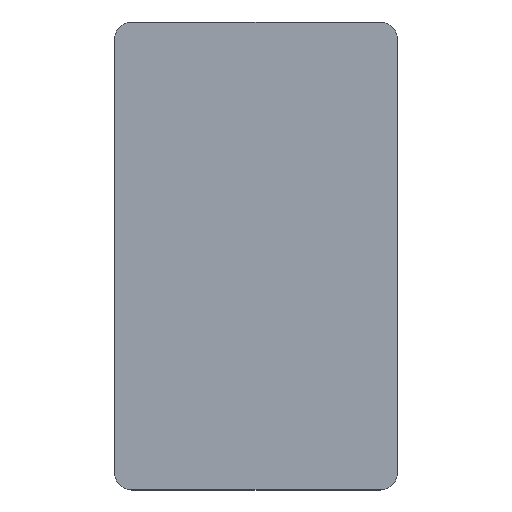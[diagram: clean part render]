
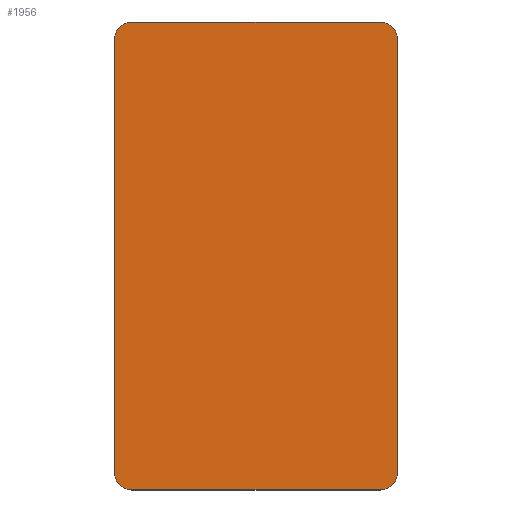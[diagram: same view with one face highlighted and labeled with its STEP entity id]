
A CAD part, top view. The second image highlights one B-rep face of the part: STEP entity #1956.
In plain terms, the highlighted planar face has unit normal (0, 0, 1).
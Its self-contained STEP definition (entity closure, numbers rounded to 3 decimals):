
#414=CARTESIAN_POINT('',(-57.,-99.5,0.));
#415=DIRECTION('',(0.,0.,1.));
#416=DIRECTION('',(-1.,0.,0.));
#417=AXIS2_PLACEMENT_3D('',#414,#415,#416);
#419=DIRECTION('',(0.,1.,0.));
#420=VECTOR('',#419,199.);
#421=CARTESIAN_POINT('',(-65.,-99.5,0.));
#422=LINE('',#421,#420);
#423=CARTESIAN_POINT('',(-57.,99.5,0.));
#424=DIRECTION('',(0.,0.,1.));
#425=DIRECTION('',(0.,1.,0.));
#426=AXIS2_PLACEMENT_3D('',#423,#424,#425);
#428=DIRECTION('',(1.,0.,0.));
#429=VECTOR('',#428,114.);
#430=CARTESIAN_POINT('',(-57.,107.5,0.));
#431=LINE('',#430,#429);
#432=CARTESIAN_POINT('',(57.,99.5,0.));
#433=DIRECTION('',(0.,0.,1.));
#434=DIRECTION('',(1.,0.,0.));
#435=AXIS2_PLACEMENT_3D('',#432,#433,#434);
#437=DIRECTION('',(0.,-1.,0.));
#438=VECTOR('',#437,199.);
#439=CARTESIAN_POINT('',(65.,99.5,0.));
#440=LINE('',#439,#438);
#441=CARTESIAN_POINT('',(57.,-99.5,0.));
#442=DIRECTION('',(0.,0.,1.));
#443=DIRECTION('',(0.,-1.,0.));
#444=AXIS2_PLACEMENT_3D('',#441,#442,#443);
#446=DIRECTION('',(-1.,0.,0.));
#447=VECTOR('',#446,114.);
#448=CARTESIAN_POINT('',(57.,-107.5,0.));
#449=LINE('',#448,#447);
#1321=CARTESIAN_POINT('',(-65.,-99.5,0.));
#1322=CARTESIAN_POINT('',(-57.,-107.5,0.));
#1323=VERTEX_POINT('',#1321);
#1324=VERTEX_POINT('',#1322);
#1325=CARTESIAN_POINT('',(-57.,107.5,0.));
#1326=CARTESIAN_POINT('',(-65.,99.5,0.));
#1327=VERTEX_POINT('',#1325);
#1328=VERTEX_POINT('',#1326);
#1329=CARTESIAN_POINT('',(65.,99.5,0.));
#1330=CARTESIAN_POINT('',(57.,107.5,0.));
#1331=VERTEX_POINT('',#1329);
#1332=VERTEX_POINT('',#1330);
#1333=CARTESIAN_POINT('',(57.,-107.5,0.));
#1334=CARTESIAN_POINT('',(65.,-99.5,0.));
#1335=VERTEX_POINT('',#1333);
#1336=VERTEX_POINT('',#1334);
#1941=CARTESIAN_POINT('',(0.,0.,0.));
#1942=DIRECTION('',(0.,0.,-1.));
#1943=DIRECTION('',(1.,0.,0.));
#1944=AXIS2_PLACEMENT_3D('',#1941,#1942,#1943);
#1945=PLANE('',#1944);
#1946=ORIENTED_EDGE('',*,*,#1935,.F.);
#1947=ORIENTED_EDGE('',*,*,#1837,.T.);
#1948=ORIENTED_EDGE('',*,*,#1852,.F.);
#1949=ORIENTED_EDGE('',*,*,#1866,.T.);
#1950=ORIENTED_EDGE('',*,*,#1880,.F.);
#1951=ORIENTED_EDGE('',*,*,#1894,.T.);
#1952=ORIENTED_EDGE('',*,*,#1908,.F.);
#1953=ORIENTED_EDGE('',*,*,#1922,.T.);
#1954=EDGE_LOOP('',(#1946,#1947,#1948,#1949,#1950,#1951,#1952,#1953));
#1955=FACE_OUTER_BOUND('',#1954,.F.);
#1956=ADVANCED_FACE('',(#1955),#1945,.F.);
#418=CIRCLE('',#417,8.);
#427=CIRCLE('',#426,8.);
#436=CIRCLE('',#435,8.);
#445=CIRCLE('',#444,8.);
#1837=EDGE_CURVE('',#1323,#1328,#422,.T.);
#1852=EDGE_CURVE('',#1327,#1328,#427,.T.);
#1866=EDGE_CURVE('',#1327,#1332,#431,.T.);
#1880=EDGE_CURVE('',#1331,#1332,#436,.T.);
#1894=EDGE_CURVE('',#1331,#1336,#440,.T.);
#1908=EDGE_CURVE('',#1335,#1336,#445,.T.);
#1922=EDGE_CURVE('',#1335,#1324,#449,.T.);
#1935=EDGE_CURVE('',#1323,#1324,#418,.T.);
